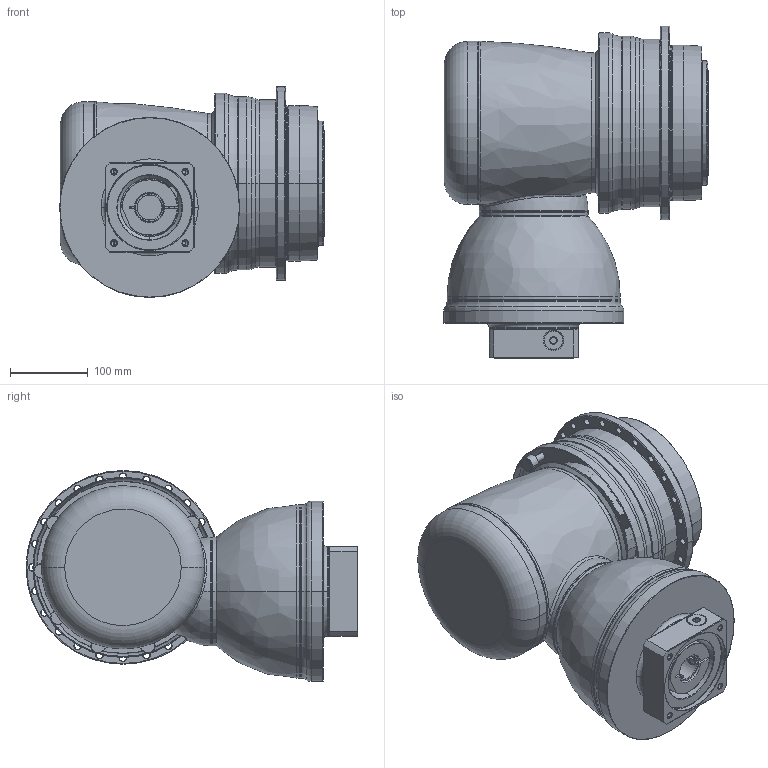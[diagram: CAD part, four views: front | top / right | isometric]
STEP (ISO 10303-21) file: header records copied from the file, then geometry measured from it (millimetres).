
FILE_DESCRIPTION((''),'2;1');
FILE_NAME('APK200_2ST_32-P0409710201_ASM','2018-06-01T',('D00080'),(''),'PRO/ENGINEER BY PARAMETRIC TECHNOLOGY CORPORATION, 2008170','PRO/ENGINEER BY PARAMETRIC TECHNOLOGY CORPORATION, 2008170','');
FILE_SCHEMA(('CONFIG_CONTROL_DESIGN'));
Length unit declared in the file: millimetre
Products named in the file (13): P1008600002; P1802610011; P0278601003; P0359601103; P1211600001; P1315600001; P1007601001; P1318610001; P0503700010; P0912650001; P0409710201; 21711418017; APK200_2ST_32-P0409710201_ASM
Assembly tree (12 placements, depth 2):
  APK200_2ST_32-P0409710201_ASM
    P1008600002
    P1802610011
    P0278601003
    P0359601103
    P1211600001
    P1315600001
    P1007601001
    P1318610001
    P0503700010
    P0912650001
    P0409710201
    21711418017
Bounding box: 341 x 427.25 x 271.75 mm (x, y, z)
Volume: 17414690.9 mm3; surface area: 1128145.1 mm2
Topology: 13 solids, 38 shells, 870 faces, 2037 edges, 1239 vertices
Faces by surface type: cylinder 356, cone 237, plane 153, torus 89, bspline 33, sphere 2
Entity records: 31524 total; most frequent: CARTESIAN_POINT 10878, DIRECTION 4761, ORIENTED_EDGE 3884, AXIS2_PLACEMENT_3D 2051, EDGE_CURVE 1993, VERTEX_POINT 1239, CIRCLE 1179, EDGE_LOOP 1024
